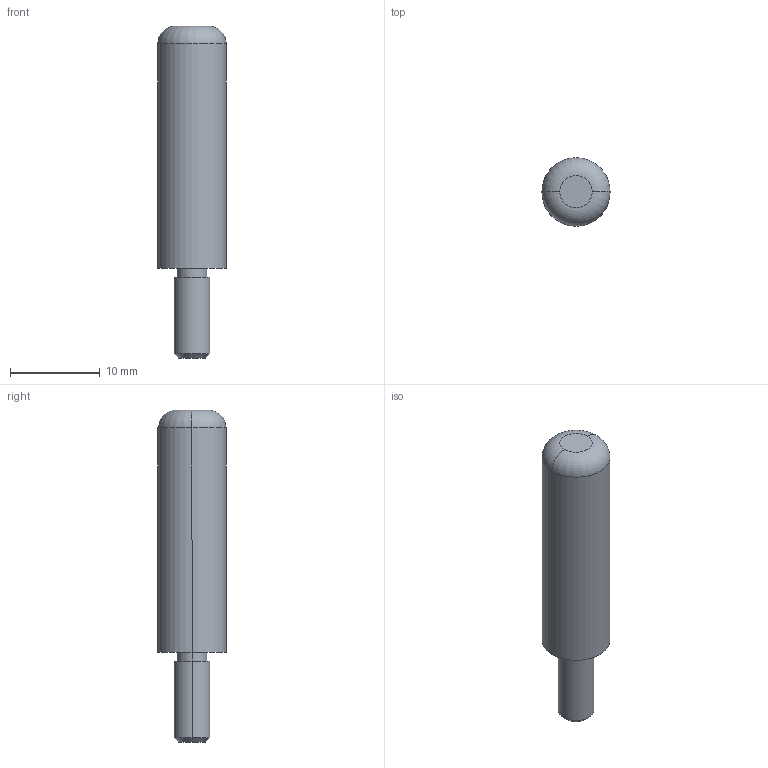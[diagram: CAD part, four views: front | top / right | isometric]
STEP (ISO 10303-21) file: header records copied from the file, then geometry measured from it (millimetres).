
FILE_DESCRIPTION(('CATIA V5 STEP Exchange'),'2;1');
FILE_NAME('D:\姚明阳\AGZ054 轻卡气悬浮阀芯组装工具\AGZ054 设计文件（pdf+stp）\GZ54.02_V1.stp','2021-08-25T05:53:40+00:00',('none'),('none'),'CATIA Version 5 Release 21 GA (IN-10)','CATIA V5 STEP AP214','none');
FILE_SCHEMA(('AUTOMOTIVE_DESIGN { 1 0 10303 214 1 1 1 1 }'));
Length unit declared in the file: millimetre
Products named in the file (1): Part2
Bounding box: 7.6 x 7.6 x 37 mm (x, y, z)
Volume: 1327 mm3; surface area: 840.6 mm2
Topology: 1 solids, 1 shells, 14 faces, 26 edges, 16 vertices
Faces by surface type: cylinder 6, plane 4, torus 2, cone 2
Entity records: 345 total; most frequent: CARTESIAN_POINT 54, ORIENTED_EDGE 52, DIRECTION 48, AXIS2_PLACEMENT_3D 30, EDGE_CURVE 26, CIRCLE 18, EDGE_LOOP 16, VERTEX_POINT 16
